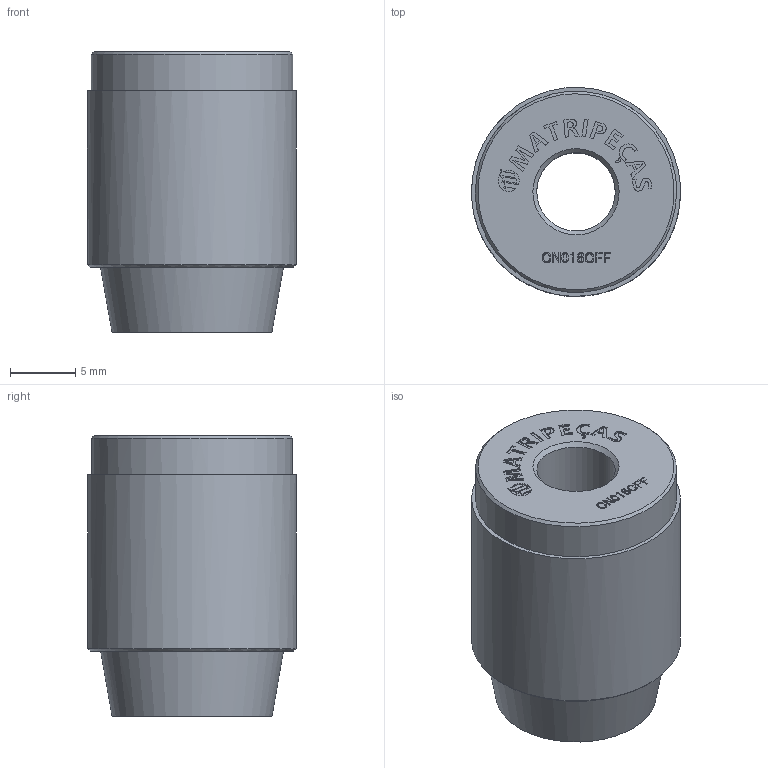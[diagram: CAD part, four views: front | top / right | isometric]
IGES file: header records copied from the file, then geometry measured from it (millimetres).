
Start section: C
Global section: file name: CN016CFF01.igs; native system: By Siemens PLM Incorporated; preprocessor: XPlus GENERIC/IGES 18.0.17; author: Author; organization: Title; date: 20240719.103031; units: millimetre
Bounding box: 16 x 15.99 x 21.5 mm (x, y, z)
Volume: 3212.7 mm3; surface area: 1784.3 mm2
Topology: 1 solids, 1 shells, 252 faces, 663 edges, 442 vertices
Faces by surface type: bspline 252
